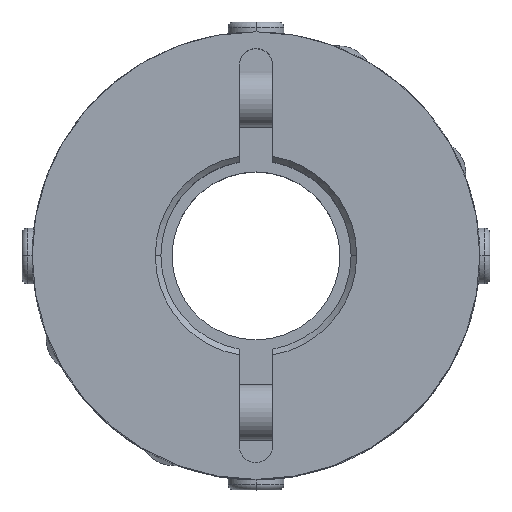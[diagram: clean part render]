
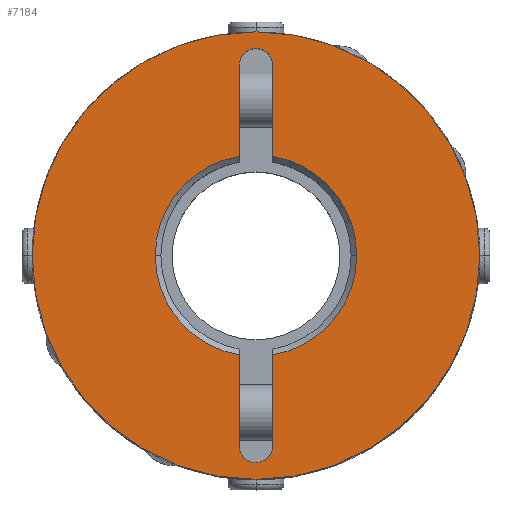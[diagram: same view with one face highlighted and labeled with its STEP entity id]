
A CAD part, top view. The second image highlights one B-rep face of the part: STEP entity #7184.
In plain terms, the highlighted planar face has unit normal (0, 0, 1).
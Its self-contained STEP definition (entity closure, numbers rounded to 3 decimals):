
#2862=CARTESIAN_POINT('',(-1.061,18.061,20.0));
#2863=VERTEX_POINT('',#2862);
#2879=CARTESIAN_POINT('',(1.5,17.,20.0));
#2880=VERTEX_POINT('',#2879);
#2887=CARTESIAN_POINT('',(0.,17.,20.0));
#2888=DIRECTION('',(0.0,0.0,1.));
#2889=DIRECTION('',(0.707,0.707,0.0));
#2890=AXIS2_PLACEMENT_3D('',#2887,#2888,#2889);
#2891=CIRCLE('',#2890,1.5);
#2892=EDGE_CURVE('',#2880,#2863,#2891,.T.);
#2904=CARTESIAN_POINT('',(1.061,-18.061,20.0));
#2905=VERTEX_POINT('',#2904);
#2921=CARTESIAN_POINT('',(-1.5,-17.,20.0));
#2922=VERTEX_POINT('',#2921);
#2929=CARTESIAN_POINT('',(0.0,-17.,20.0));
#2930=DIRECTION('',(0.0,0.0,1.0));
#2931=DIRECTION('',(-0.707,-0.707,0.0));
#2932=AXIS2_PLACEMENT_3D('',#2929,#2930,#2931);
#2933=CIRCLE('',#2932,1.5);
#2934=EDGE_CURVE('',#2922,#2905,#2933,.T.);
#3035=CARTESIAN_POINT('',(-9.0,0.,20.0));
#3036=VERTEX_POINT('',#3035);
#3043=CARTESIAN_POINT('',(-1.5,-8.874,20.0));
#3044=VERTEX_POINT('',#3043);
#3045=CARTESIAN_POINT('',(0.0,0.0,20.0));
#3046=DIRECTION('',(0.0,0.0,1.0));
#3047=DIRECTION('',(-1.0,0.0,0.0));
#3048=AXIS2_PLACEMENT_3D('',#3045,#3046,#3047);
#3049=CIRCLE('',#3048,9.0);
#3050=EDGE_CURVE('',#3036,#3044,#3049,.T.);
#3074=CARTESIAN_POINT('',(9.0,0.,20.0));
#3075=VERTEX_POINT('',#3074);
#3082=CARTESIAN_POINT('',(1.5,8.874,20.0));
#3083=VERTEX_POINT('',#3082);
#3084=CARTESIAN_POINT('',(0.0,0.0,20.0));
#3085=DIRECTION('',(0.0,0.0,1.0));
#3086=DIRECTION('',(1.0,0.0,0.0));
#3087=AXIS2_PLACEMENT_3D('',#3084,#3085,#3086);
#3088=CIRCLE('',#3087,9.0);
#3089=EDGE_CURVE('',#3075,#3083,#3088,.T.);
#3566=CARTESIAN_POINT('',(-20.0,0.,20.0));
#3567=VERTEX_POINT('',#3566);
#3574=CARTESIAN_POINT('',(20.0,0.0,20.0));
#3575=VERTEX_POINT('',#3574);
#3576=CARTESIAN_POINT('',(0.0,0.0,20.0));
#3577=DIRECTION('',(0.0,0.0,-1.0));
#3578=DIRECTION('',(1.0,0.0,0.0));
#3579=AXIS2_PLACEMENT_3D('',#3576,#3577,#3578);
#3580=CIRCLE('',#3579,20.0);
#3581=EDGE_CURVE('',#3567,#3575,#3580,.T.);
#6510=CARTESIAN_POINT('',(0.0,0.0,20.0));
#6511=DIRECTION('',(0.0,0.0,-1.0));
#6512=DIRECTION('',(1.0,0.0,0.0));
#6513=AXIS2_PLACEMENT_3D('',#6510,#6511,#6512);
#6514=CIRCLE('',#6513,20.0);
#6515=EDGE_CURVE('',#3575,#3567,#6514,.T.);
#6995=CARTESIAN_POINT('',(-1.5,17.,20.0));
#6996=VERTEX_POINT('',#6995);
#7003=CARTESIAN_POINT('',(-1.5,8.874,20.0));
#7004=VERTEX_POINT('',#7003);
#7005=CARTESIAN_POINT('',(-1.5,8.874,20.0));
#7006=DIRECTION('',(0.0,1.0,0.0));
#7007=VECTOR('',#7006,8.126);
#7008=LINE('',#7005,#7007);
#7009=EDGE_CURVE('',#7004,#6996,#7008,.T.);
#7084=CARTESIAN_POINT('',(1.5,17.,20.0));
#7085=DIRECTION('',(0.0,-1.0,0.0));
#7086=VECTOR('',#7085,8.126);
#7087=LINE('',#7084,#7086);
#7088=EDGE_CURVE('',#2880,#3083,#7087,.T.);
#7106=CARTESIAN_POINT('',(1.5,-8.874,20.0));
#7107=VERTEX_POINT('',#7106);
#7121=CARTESIAN_POINT('',(0.0,0.0,20.0));
#7122=DIRECTION('',(0.0,0.0,1.0));
#7123=DIRECTION('',(1.0,0.0,0.0));
#7124=AXIS2_PLACEMENT_3D('',#7121,#7122,#7123);
#7125=CIRCLE('',#7124,9.0);
#7126=EDGE_CURVE('',#7107,#3075,#7125,.T.);
#7131=CARTESIAN_POINT('',(1.818,0.,20.0));
#7132=DIRECTION('',(0.0,0.0,1.0));
#7133=DIRECTION('',(1.0,0.0,0.0));
#7134=AXIS2_PLACEMENT_3D('',#7131,#7132,#7133);
#7135=PLANE('',#7134);
#7136=ORIENTED_EDGE('',*,*,#6515,.F.);
#7137=ORIENTED_EDGE('',*,*,#3581,.F.);
#7138=EDGE_LOOP('',(#7136,#7137));
#7139=FACE_OUTER_BOUND('',#7138,.T.);
#7140=ORIENTED_EDGE('',*,*,#7126,.F.);
#7141=CARTESIAN_POINT('',(1.5,-17.,20.0));
#7142=VERTEX_POINT('',#7141);
#7143=CARTESIAN_POINT('',(1.5,-8.874,20.0));
#7144=DIRECTION('',(0.0,-1.0,0.0));
#7145=VECTOR('',#7144,8.126);
#7146=LINE('',#7143,#7145);
#7147=EDGE_CURVE('',#7107,#7142,#7146,.T.);
#7148=ORIENTED_EDGE('',*,*,#7147,.T.);
#7149=CARTESIAN_POINT('',(0.0,-17.,20.0));
#7150=DIRECTION('',(0.0,0.0,1.0));
#7151=DIRECTION('',(-0.707,-0.707,0.0));
#7152=AXIS2_PLACEMENT_3D('',#7149,#7150,#7151);
#7153=CIRCLE('',#7152,1.5);
#7154=EDGE_CURVE('',#2905,#7142,#7153,.T.);
#7155=ORIENTED_EDGE('',*,*,#7154,.F.);
#7156=ORIENTED_EDGE('',*,*,#2934,.F.);
#7157=CARTESIAN_POINT('',(-1.5,-17.,20.0));
#7158=DIRECTION('',(0.0,1.0,0.0));
#7159=VECTOR('',#7158,8.126);
#7160=LINE('',#7157,#7159);
#7161=EDGE_CURVE('',#2922,#3044,#7160,.T.);
#7162=ORIENTED_EDGE('',*,*,#7161,.T.);
#7163=ORIENTED_EDGE('',*,*,#3050,.F.);
#7164=CARTESIAN_POINT('',(0.0,0.0,20.0));
#7165=DIRECTION('',(0.0,0.0,1.0));
#7166=DIRECTION('',(-1.0,0.0,0.0));
#7167=AXIS2_PLACEMENT_3D('',#7164,#7165,#7166);
#7168=CIRCLE('',#7167,9.0);
#7169=EDGE_CURVE('',#7004,#3036,#7168,.T.);
#7170=ORIENTED_EDGE('',*,*,#7169,.F.);
#7171=ORIENTED_EDGE('',*,*,#7009,.T.);
#7172=CARTESIAN_POINT('',(0.,17.,20.0));
#7173=DIRECTION('',(0.0,0.0,1.));
#7174=DIRECTION('',(0.707,0.707,0.0));
#7175=AXIS2_PLACEMENT_3D('',#7172,#7173,#7174);
#7176=CIRCLE('',#7175,1.5);
#7177=EDGE_CURVE('',#2863,#6996,#7176,.T.);
#7178=ORIENTED_EDGE('',*,*,#7177,.F.);
#7179=ORIENTED_EDGE('',*,*,#2892,.F.);
#7180=ORIENTED_EDGE('',*,*,#7088,.T.);
#7181=ORIENTED_EDGE('',*,*,#3089,.F.);
#7182=EDGE_LOOP('',(#7140,#7148,#7155,#7156,#7162,#7163,#7170,#7171,#7178,#7179,#7180,#7181));
#7183=FACE_BOUND('',#7182,.T.);
#7184=ADVANCED_FACE('',(#7139,#7183),#7135,.T.);
